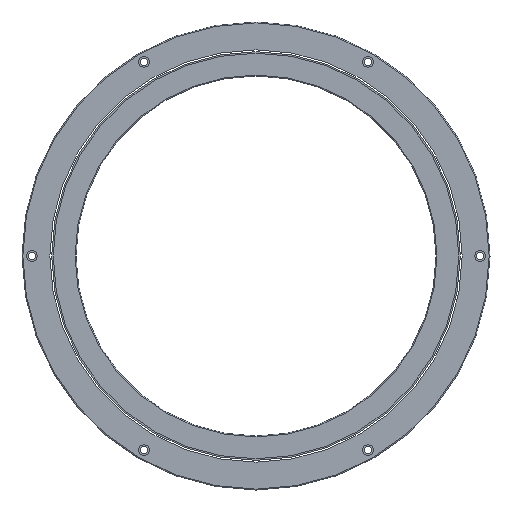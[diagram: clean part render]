
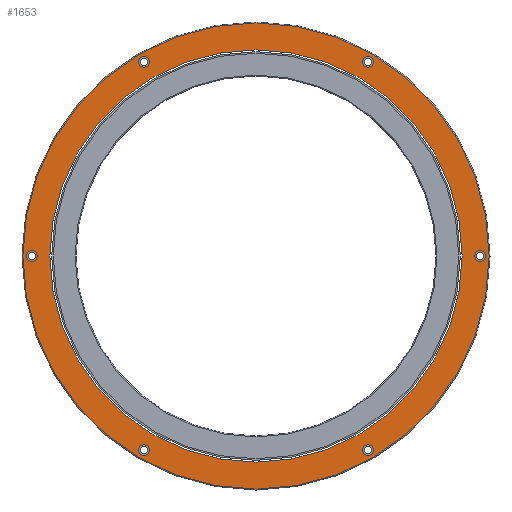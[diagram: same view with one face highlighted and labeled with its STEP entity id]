
A CAD part, front view. The second image highlights one B-rep face of the part: STEP entity #1653.
In plain terms, the highlighted planar face has unit normal (0, -1, 0).
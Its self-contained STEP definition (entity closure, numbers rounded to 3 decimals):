
#371=CARTESIAN_POINT('',(0.,0.,0.));
#372=DIRECTION('',(0.,-1.,0.));
#373=DIRECTION('',(-1.,0.,0.));
#374=AXIS2_PLACEMENT_3D('',#371,#372,#373);
#376=CARTESIAN_POINT('',(0.,0.,0.));
#377=DIRECTION('',(0.,1.,0.));
#378=DIRECTION('',(-1.,0.,0.));
#379=AXIS2_PLACEMENT_3D('',#376,#377,#378);
#381=CARTESIAN_POINT('',(-124.5,0.,0.));
#382=DIRECTION('',(0.,1.,0.));
#383=DIRECTION('',(1.,0.,0.));
#384=AXIS2_PLACEMENT_3D('',#381,#382,#383);
#386=CARTESIAN_POINT('',(-124.5,0.,0.));
#387=DIRECTION('',(0.,1.,0.));
#388=DIRECTION('',(-1.,0.,0.));
#389=AXIS2_PLACEMENT_3D('',#386,#387,#388);
#391=CARTESIAN_POINT('',(-62.25,0.,107.82));
#392=DIRECTION('',(0.,1.,0.));
#393=DIRECTION('',(0.5,0.,-0.866));
#394=AXIS2_PLACEMENT_3D('',#391,#392,#393);
#396=CARTESIAN_POINT('',(-62.25,0.,107.82));
#397=DIRECTION('',(0.,1.,0.));
#398=DIRECTION('',(-0.5,0.,0.866));
#399=AXIS2_PLACEMENT_3D('',#396,#397,#398);
#401=CARTESIAN_POINT('',(62.25,0.,107.82));
#402=DIRECTION('',(0.,1.,0.));
#403=DIRECTION('',(-0.5,0.,-0.866));
#404=AXIS2_PLACEMENT_3D('',#401,#402,#403);
#406=CARTESIAN_POINT('',(62.25,0.,107.82));
#407=DIRECTION('',(0.,1.,0.));
#408=DIRECTION('',(0.5,0.,0.866));
#409=AXIS2_PLACEMENT_3D('',#406,#407,#408);
#411=CARTESIAN_POINT('',(124.5,0.,0.));
#412=DIRECTION('',(0.,1.,0.));
#413=DIRECTION('',(-1.,0.,0.));
#414=AXIS2_PLACEMENT_3D('',#411,#412,#413);
#416=CARTESIAN_POINT('',(124.5,0.,0.));
#417=DIRECTION('',(0.,1.,0.));
#418=DIRECTION('',(1.,0.,0.));
#419=AXIS2_PLACEMENT_3D('',#416,#417,#418);
#421=CARTESIAN_POINT('',(62.25,0.,-107.82));
#422=DIRECTION('',(0.,1.,0.));
#423=DIRECTION('',(-0.5,0.,0.866));
#424=AXIS2_PLACEMENT_3D('',#421,#422,#423);
#426=CARTESIAN_POINT('',(62.25,0.,-107.82));
#427=DIRECTION('',(0.,1.,0.));
#428=DIRECTION('',(0.5,0.,-0.866));
#429=AXIS2_PLACEMENT_3D('',#426,#427,#428);
#431=CARTESIAN_POINT('',(-62.25,0.,-107.82));
#432=DIRECTION('',(0.,1.,0.));
#433=DIRECTION('',(0.5,0.,0.866));
#434=AXIS2_PLACEMENT_3D('',#431,#432,#433);
#436=CARTESIAN_POINT('',(-62.25,0.,-107.82));
#437=DIRECTION('',(0.,1.,0.));
#438=DIRECTION('',(-0.5,0.,-0.866));
#439=AXIS2_PLACEMENT_3D('',#436,#437,#438);
#441=CARTESIAN_POINT('',(0.,0.,0.));
#442=DIRECTION('',(0.,1.,0.));
#443=DIRECTION('',(-1.,0.,0.));
#444=AXIS2_PLACEMENT_3D('',#441,#442,#443);
#446=CARTESIAN_POINT('',(0.,0.,0.));
#447=DIRECTION('',(0.,1.,0.));
#448=DIRECTION('',(1.,0.,0.));
#449=AXIS2_PLACEMENT_3D('',#446,#447,#448);
#919=CARTESIAN_POINT('',(-121.5,0.,0.));
#920=VERTEX_POINT('',#919);
#921=CARTESIAN_POINT('',(-127.5,0.,0.));
#922=VERTEX_POINT('',#921);
#931=CARTESIAN_POINT('',(-60.75,0.,105.222));
#932=VERTEX_POINT('',#931);
#933=CARTESIAN_POINT('',(-63.75,0.,110.418));
#934=VERTEX_POINT('',#933);
#943=CARTESIAN_POINT('',(60.75,0.,105.222));
#944=VERTEX_POINT('',#943);
#945=CARTESIAN_POINT('',(63.75,0.,110.418));
#946=VERTEX_POINT('',#945);
#955=CARTESIAN_POINT('',(121.5,0.,0.));
#956=VERTEX_POINT('',#955);
#957=CARTESIAN_POINT('',(127.5,0.,0.));
#958=VERTEX_POINT('',#957);
#976=CARTESIAN_POINT('',(-114.5,0.,0.));
#978=VERTEX_POINT('',#976);
#980=CARTESIAN_POINT('',(114.5,0.,0.));
#982=VERTEX_POINT('',#980);
#995=CARTESIAN_POINT('',(-129.5,0.,0.));
#996=CARTESIAN_POINT('',(129.5,0.,0.));
#997=VERTEX_POINT('',#995);
#998=VERTEX_POINT('',#996);
#1043=CARTESIAN_POINT('',(60.75,0.,-105.222));
#1044=CARTESIAN_POINT('',(63.75,0.,-110.418));
#1045=VERTEX_POINT('',#1043);
#1046=VERTEX_POINT('',#1044);
#1055=CARTESIAN_POINT('',(-60.75,0.,-105.222));
#1056=CARTESIAN_POINT('',(-63.75,0.,-110.418));
#1057=VERTEX_POINT('',#1055);
#1058=VERTEX_POINT('',#1056);
#1604=CARTESIAN_POINT('',(0.,0.,0.));
#1605=DIRECTION('',(0.,1.,0.));
#1606=DIRECTION('',(1.,0.,0.));
#1607=AXIS2_PLACEMENT_3D('',#1604,#1605,#1606);
#1608=PLANE('',#1607);
#1609=ORIENTED_EDGE('',*,*,#1090,.T.);
#1610=ORIENTED_EDGE('',*,*,#1105,.T.);
#1611=EDGE_LOOP('',(#1609,#1610));
#1612=FACE_OUTER_BOUND('',#1611,.F.);
#1614=ORIENTED_EDGE('',*,*,#1613,.F.);
#1616=ORIENTED_EDGE('',*,*,#1615,.F.);
#1617=EDGE_LOOP('',(#1614,#1616));
#1618=FACE_BOUND('',#1617,.F.);
#1620=ORIENTED_EDGE('',*,*,#1619,.F.);
#1622=ORIENTED_EDGE('',*,*,#1621,.F.);
#1623=EDGE_LOOP('',(#1620,#1622));
#1624=FACE_BOUND('',#1623,.F.);
#1626=ORIENTED_EDGE('',*,*,#1625,.F.);
#1628=ORIENTED_EDGE('',*,*,#1627,.F.);
#1629=EDGE_LOOP('',(#1626,#1628));
#1630=FACE_BOUND('',#1629,.F.);
#1632=ORIENTED_EDGE('',*,*,#1631,.F.);
#1634=ORIENTED_EDGE('',*,*,#1633,.F.);
#1635=EDGE_LOOP('',(#1632,#1634));
#1636=FACE_BOUND('',#1635,.F.);
#1638=ORIENTED_EDGE('',*,*,#1637,.F.);
#1640=ORIENTED_EDGE('',*,*,#1639,.F.);
#1641=EDGE_LOOP('',(#1638,#1640));
#1642=FACE_BOUND('',#1641,.F.);
#1644=ORIENTED_EDGE('',*,*,#1643,.F.);
#1646=ORIENTED_EDGE('',*,*,#1645,.F.);
#1647=EDGE_LOOP('',(#1644,#1646));
#1648=FACE_BOUND('',#1647,.F.);
#1649=ORIENTED_EDGE('',*,*,#1599,.T.);
#1650=ORIENTED_EDGE('',*,*,#1583,.F.);
#1651=EDGE_LOOP('',(#1649,#1650));
#1652=FACE_BOUND('',#1651,.F.);
#375=CIRCLE('',#374,114.5);
#380=CIRCLE('',#379,114.5);
#385=CIRCLE('',#384,3.);
#390=CIRCLE('',#389,3.);
#395=CIRCLE('',#394,3.);
#400=CIRCLE('',#399,3.);
#405=CIRCLE('',#404,3.);
#410=CIRCLE('',#409,3.);
#415=CIRCLE('',#414,3.);
#420=CIRCLE('',#419,3.);
#425=CIRCLE('',#424,3.);
#430=CIRCLE('',#429,3.);
#435=CIRCLE('',#434,3.);
#440=CIRCLE('',#439,3.);
#445=CIRCLE('',#444,129.5);
#450=CIRCLE('',#449,129.5);
#1090=EDGE_CURVE('',#997,#998,#445,.T.);
#1105=EDGE_CURVE('',#998,#997,#450,.T.);
#1583=EDGE_CURVE('',#978,#982,#380,.T.);
#1599=EDGE_CURVE('',#978,#982,#375,.T.);
#1613=EDGE_CURVE('',#920,#922,#385,.T.);
#1615=EDGE_CURVE('',#922,#920,#390,.T.);
#1619=EDGE_CURVE('',#932,#934,#395,.T.);
#1621=EDGE_CURVE('',#934,#932,#400,.T.);
#1625=EDGE_CURVE('',#944,#946,#405,.T.);
#1627=EDGE_CURVE('',#946,#944,#410,.T.);
#1631=EDGE_CURVE('',#956,#958,#415,.T.);
#1633=EDGE_CURVE('',#958,#956,#420,.T.);
#1637=EDGE_CURVE('',#1045,#1046,#425,.T.);
#1639=EDGE_CURVE('',#1046,#1045,#430,.T.);
#1643=EDGE_CURVE('',#1057,#1058,#435,.T.);
#1645=EDGE_CURVE('',#1058,#1057,#440,.T.);
#1653=ADVANCED_FACE('',(#1612,#1618,#1624,#1630,#1636,#1642,#1648,#1652),#1608,
.F.);
